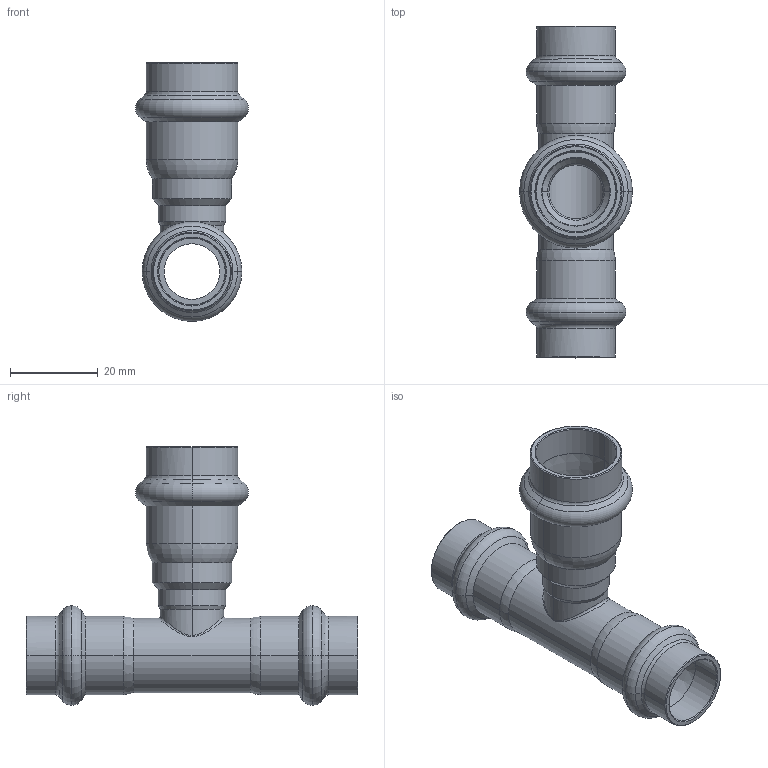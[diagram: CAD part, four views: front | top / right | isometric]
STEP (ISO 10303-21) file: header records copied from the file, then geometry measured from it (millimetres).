
FILE_DESCRIPTION(('CoCreate Modeling STEP Export'),'2;1');
FILE_NAME('8130RVW151815.stp','2013-01-31T14:35:26',(''),(''),'CoCreate Modeling STEP processor for AP214 (Solid Model)','CoCreate Modeling 17.00A 17-Jun-2010 (C) Parametric Technology GmbH','');
FILE_SCHEMA(('AUTOMOTIVE_DESIGN { 1 0 10303 214 1 1 1 1 }'));
Length unit declared in the file: millimetre
Products named in the file (2): 8130RVW151815
Assembly tree (1 placements, depth 2):
  8130RVW151815
    8130RVW151815
Bounding box: 25.7 x 75.51 x 58.89 mm (x, y, z)
Volume: 10053.3 mm3; surface area: 13165.1 mm2
Topology: 1 solids, 1 shells, 135 faces, 287 edges, 161 vertices
Faces by surface type: cylinder 44, torus 42, cone 36, plane 9, bspline 4
Entity records: 6942 total; most frequent: CARTESIAN_POINT 4482, ORIENTED_EDGE 574, DIRECTION 442, EDGE_CURVE 287, AXIS2_PLACEMENT_3D 181, VERTEX_POINT 161, EDGE_LOOP 146, FACE_OUTER_BOUND 135
